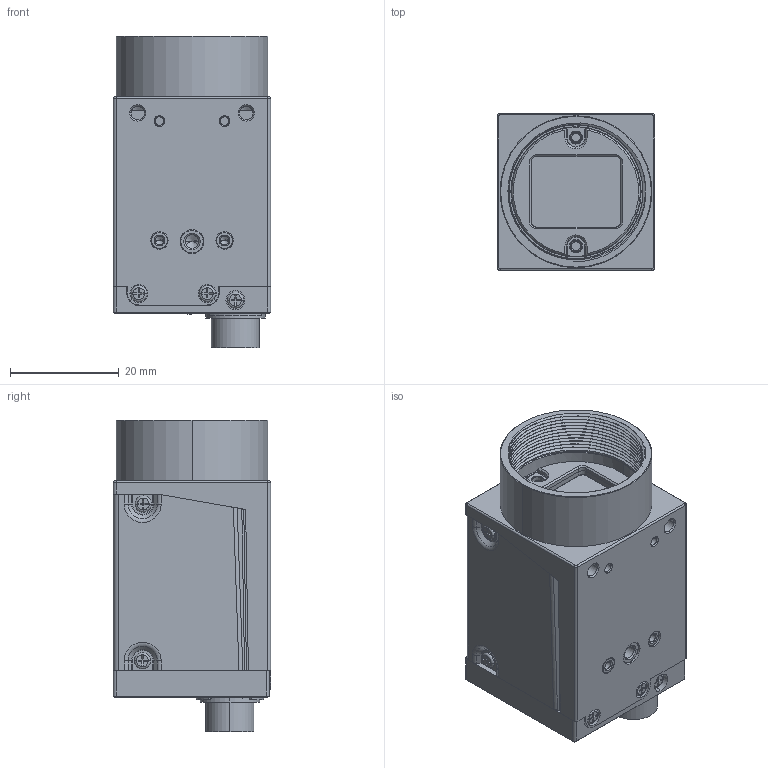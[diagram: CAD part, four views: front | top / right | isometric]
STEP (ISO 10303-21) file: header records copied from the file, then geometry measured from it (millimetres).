
FILE_DESCRIPTION((''),'2;1');
FILE_NAME('ASM0002_ASM','2018-07-13T',('Dongwoo'),(''),'CREO PARAMETRIC BY PTC INC, 2016130','CREO PARAMETRIC BY PTC INC, 2016130','');
FILE_SCHEMA(('CONFIG_CONTROL_DESIGN'));
Length unit declared in the file: inch
Products named in the file (15): SCG-BASEBODY-C_52; MGE-02-00-00-00_4; GLASS-18X15_2; SCG-GLASS-COVER_3; MGE-05-00-00-00_4; CH-MS-M2XL3-ZNB_3; PI3-LED-3-DIP_2; PI3-LED-DIP_2; TM11R-5M2-88_5; MGE-CMOS-PCB-ASSY_ASM_5_ASM; HR10A_7R_6P_1; SCG-BASEBODY-PRESS-PIN-A_5; SCG-BASEBODY-PRESS-PIN-B_4; SCG-ASSY_ASM_56_ASM; ASM0002_ASM
Assembly tree (21 placements, depth 4):
  ASM0002_ASM
    SCG-ASSY_ASM_56_ASM
      SCG-BASEBODY-C_52
      MGE-02-00-00-00_4
      GLASS-18X15_2
      SCG-GLASS-COVER_3
      MGE-05-00-00-00_4
      CH-MS-M2XL3-ZNB_3  x7
      MGE-CMOS-PCB-ASSY_ASM_5_ASM
        PI3-LED-3-DIP_2
        PI3-LED-DIP_2
        TM11R-5M2-88_5
      HR10A_7R_6P_1
      SCG-BASEBODY-PRESS-PIN-A_5
      SCG-BASEBODY-PRESS-PIN-B_4  x2
Bounding box: 29 x 29 x 57.47 mm (x, y, z)
Volume: 26473.1 mm3; surface area: 22712.7 mm2
Topology: 19 solids, 43 shells, 1503 faces, 3984 edges, 2600 vertices
Faces by surface type: plane 708, cylinder 541, cone 139, torus 56, bspline 46, sphere 13
Entity records: 46245 total; most frequent: CARTESIAN_POINT 14288, DIRECTION 6605, ORIENTED_EDGE 6600, EDGE_CURVE 3348, AXIS2_PLACEMENT_3D 2401, VERTEX_POINT 2197, VECTOR 1803, LINE 1803
